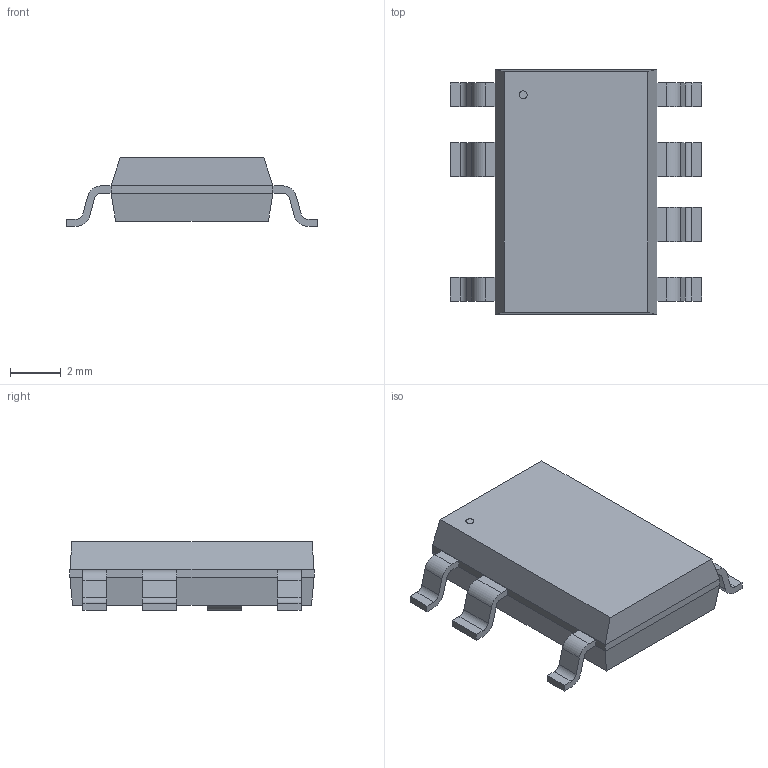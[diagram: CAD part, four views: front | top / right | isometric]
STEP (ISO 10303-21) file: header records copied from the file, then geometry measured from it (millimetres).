
FILE_DESCRIPTION(('STEP AP214'),'1');
FILE_NAME('SMD-8C_PWI','2023-11-22T10:43:40',(''),(''),'','','');
FILE_SCHEMA(('AUTOMOTIVE_DESIGN'));
Length unit declared in the file: millimetre
Products named in the file (1): product
Bounding box: 9.86 x 9.58 x 2.69 mm (x, y, z)
Volume: 150.2 mm3; surface area: 243.1 mm2
Topology: 9 solids, 9 shells, 115 faces, 283 edges, 186 vertices
Faces by surface type: plane 86, cylinder 29
Full cylindrical faces by diameter (mm): 0.318 x1
Entity records: 3385 total; most frequent: DIRECTION 574, ORIENTED_EDGE 564, CARTESIAN_POINT 333, EDGE_CURVE 282, LINE 224, VECTOR 224, VERTEX_POINT 186, AXIS2_PLACEMENT_3D 175
